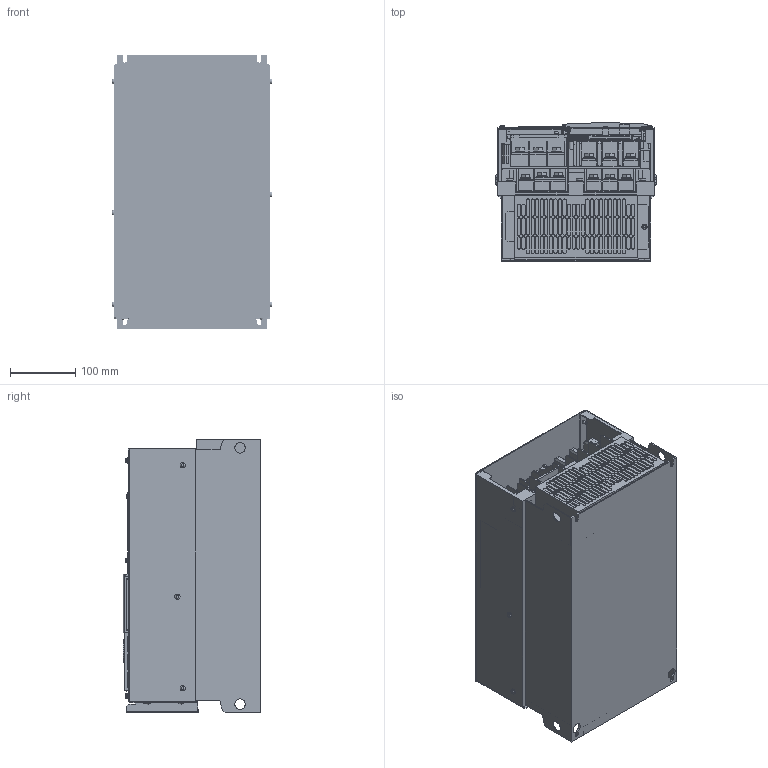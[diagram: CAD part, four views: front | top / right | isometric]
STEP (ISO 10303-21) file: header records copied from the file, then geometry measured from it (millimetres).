
FILE_DESCRIPTION((''),'2;1');
FILE_NAME('VFAS3J_J6_ASM','2019-09-17T18:53:15',('SESA57331'),('Schneider-Electric'),'CREO PARAMETRIC BY PTC INC, 2018300','CREO PARAMETRIC BY PTC INC, 2018300','');
FILE_SCHEMA(('CONFIG_CONTROL_DESIGN'));
Products named in the file (20): VFAS3J_DRIVE_J6; VFAS3J_CTR_TERM; VFAS3J_CTR_TERM_SHORT_BAR; VFAS3J_CTR_TERM_SCREW_M3-1; VFAS3J_CTR_TERM_SCREW_M3-2; VFAS3J_CTR_TERM_FL_COVER; VFAS3J_CTR_TERM_ASM; VFAS3J_DISPLAY; VFAS3J_DISPLAY_COVER; TERM_SUNT-BAR_M8; TERM_SCREW_M8X20; TERM_SCREW_M8X15; SCREW_M5X12; SCREW_M4X16; SCREW_M4X50; VFAS3J_TOP_COVER_J6; VFAS3J_FRONT_COVER_J6; VFAS3J_CTR_CAP; VFAS3J_FRONT_COVER_J6_ASM; VFAS3J_J6_ASM
Assembly tree (57 placements, depth 3):
  VFAS3J_J6_ASM
    VFAS3J_DRIVE_J6
    VFAS3J_CTR_TERM_ASM
      VFAS3J_CTR_TERM
      VFAS3J_CTR_TERM_SHORT_BAR  x2
      VFAS3J_CTR_TERM_SCREW_M3-1  x23
      VFAS3J_CTR_TERM_SCREW_M3-2  x3
      VFAS3J_CTR_TERM_FL_COVER
    VFAS3J_DISPLAY
    VFAS3J_DISPLAY_COVER
    TERM_SUNT-BAR_M8
    TERM_SCREW_M8X20  x9
    TERM_SCREW_M8X15  x3
    SCREW_M5X12  x4
    SCREW_M4X16
    SCREW_M4X50
    VFAS3J_TOP_COVER_J6
    VFAS3J_FRONT_COVER_J6_ASM
      VFAS3J_FRONT_COVER_J6
      VFAS3J_CTR_CAP
Bounding box: 246 x 211.28 x 420 mm (x, y, z)
Volume: 15611194.6 mm3; surface area: 1199228.6 mm2
Topology: 55 solids, 57 shells, 5121 faces, 13218 edges, 8610 vertices
Faces by surface type: plane 3648, cylinder 1297, torus 112, sphere 26, cone 20, bspline 18
Entity records: 138042 total; most frequent: CARTESIAN_POINT 24859, ORIENTED_EDGE 23448, DIRECTION 23125, EDGE_CURVE 11724, VECTOR 9175, LINE 9175, VERTEX_POINT 7690, AXIS2_PLACEMENT_3D 6975
